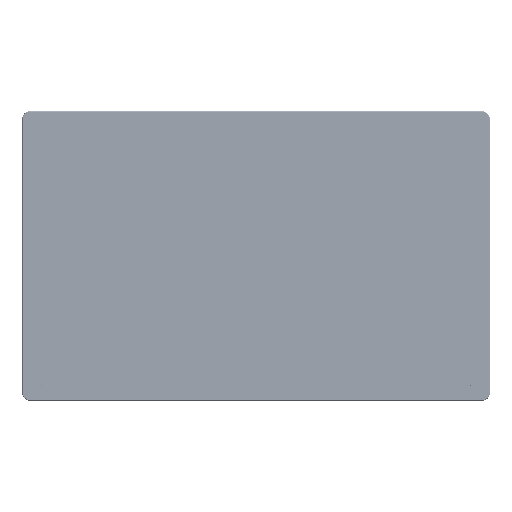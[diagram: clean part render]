
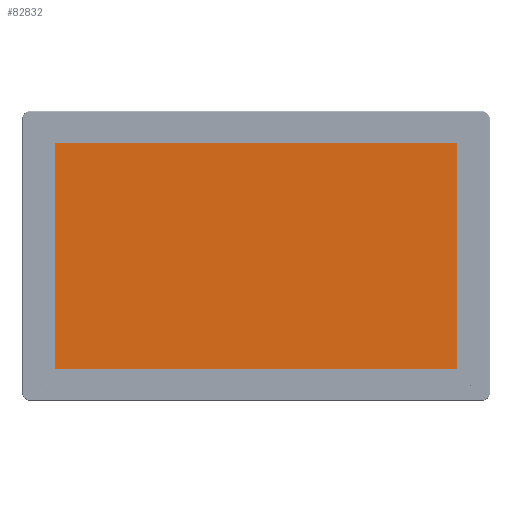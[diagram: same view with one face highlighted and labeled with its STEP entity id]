
A CAD part, top view. The second image highlights one B-rep face of the part: STEP entity #82832.
In plain terms, the highlighted planar face has unit normal (0, 0, 1).
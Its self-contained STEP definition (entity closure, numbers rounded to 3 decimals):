
#39251=LINE('',#678678,#57124);
#39255=LINE('',#678687,#57128);
#39258=LINE('',#678693,#57131);
#39261=LINE('',#678699,#57134);
#57124=VECTOR('',#372414,1.);
#57128=VECTOR('',#372420,1.);
#57131=VECTOR('',#372425,1.);
#57134=VECTOR('',#372430,1.);
#82832=ADVANCED_FACE('',(#105580),#88790,.T.);
#88790=PLANE('',#307472);
#105580=FACE_OUTER_BOUND('',#124041,.T.);
#124041=EDGE_LOOP('',(#208068,#208069,#208070,#208071));
#208068=ORIENTED_EDGE('',*,*,#275915,.T.);
#208069=ORIENTED_EDGE('',*,*,#275925,.T.);
#208070=ORIENTED_EDGE('',*,*,#275922,.T.);
#208071=ORIENTED_EDGE('',*,*,#275919,.T.);
#233878=VERTEX_POINT('',#678679);
#233879=VERTEX_POINT('',#678680);
#233882=VERTEX_POINT('',#678688);
#233884=VERTEX_POINT('',#678694);
#275915=EDGE_CURVE('',#233878,#233879,#39251,.T.);
#275919=EDGE_CURVE('',#233882,#233878,#39255,.T.);
#275922=EDGE_CURVE('',#233884,#233882,#39258,.T.);
#275925=EDGE_CURVE('',#233879,#233884,#39261,.T.);
#307472=AXIS2_PLACEMENT_3D('',#678703,#372436,#372437);
#372414=DIRECTION('',(0.,-1.,0.));
#372420=DIRECTION('',(-1.,0.,0.));
#372425=DIRECTION('',(0.,1.,0.));
#372430=DIRECTION('',(1.,0.,0.));
#372436=DIRECTION('',(0.,0.,1.));
#372437=DIRECTION('',(1.,0.,0.));
#678678=CARTESIAN_POINT('',(-297.546,125.49,11.5));
#678679=CARTESIAN_POINT('',(-297.546,125.49,11.5));
#678680=CARTESIAN_POINT('',(-297.546,-143.51,11.5));
#678687=CARTESIAN_POINT('',(-297.546,125.49,11.5));
#678688=CARTESIAN_POINT('',(179.954,125.49,11.5));
#678693=CARTESIAN_POINT('',(179.954,125.49,11.5));
#678694=CARTESIAN_POINT('',(179.954,-143.51,11.5));
#678699=CARTESIAN_POINT('',(-297.546,-143.51,11.5));
#678703=CARTESIAN_POINT('',(-52.517,2.567,11.5));
